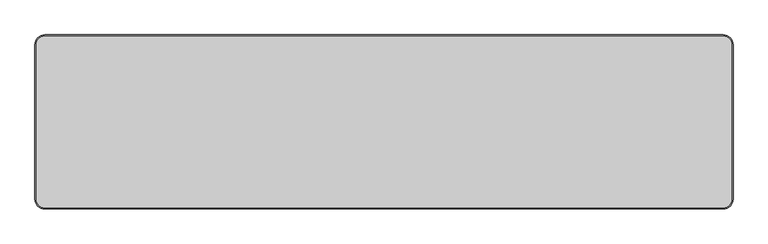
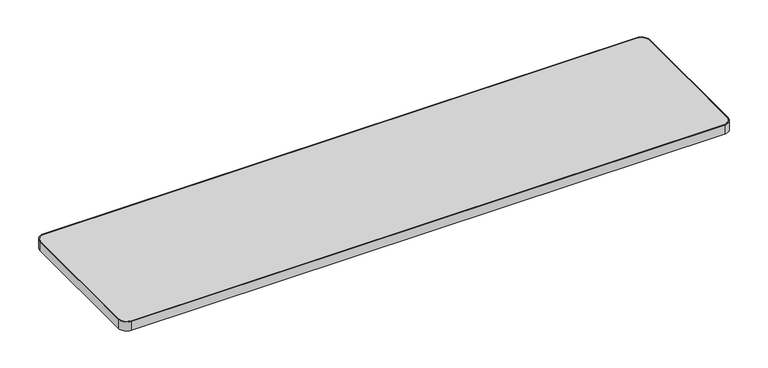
"""IFC4 building model written with IfcOpenShell, lengths in millimetres: furniture geometry, Steelcase - Groupwork - Table - Top - Rectangular : 18D x 72W - HPL."""

import ifcopenshell
import ifcopenshell.guid

model = None  # the IFC model being written
_history = None  # IfcOwnerHistory: only IFC2X3 demands one
_inside = {}  # id of a spatial element -> (the spatial element, [elements in it])
_under = {}  # id of a project, library or spatial element -> (it, [spatial elements below it])
_declared = {}  # id of a project -> (the project, [libraries it declares])
_typed = {}  # id of a type object -> (the type object, [elements of that type])
_made_of = {}  # id of a material, layer set ... -> (it, [elements and type objects made of it])


def new_model(schema):
    """Start an empty IFC model of exactly this schema.

    Asked for "IFC4X3", IfcOpenShell would pick the latest addendum, in which some entities
    have other attributes; the version numbers below select the first issue.
    IFC2X3 requires an IfcOwnerHistory on every rooted entity: one is made here for all.
    """
    global model, _history
    if schema == "IFC4X3":
        model = ifcopenshell.file(schema_version=(4, 3, 0, 0))
    else:
        model = ifcopenshell.file(schema=schema)
    _inside.clear()
    _under.clear()
    _declared.clear()
    _typed.clear()
    _made_of.clear()
    _history = None
    if model.schema == "IFC2X3":
        org = make("IfcOrganization", Name="unknown")
        user = make(
            "IfcPersonAndOrganization",
            ThePerson=make("IfcPerson", FamilyName="unknown"),
            TheOrganization=org,
        )
        app = make(
            "IfcApplication",
            ApplicationDeveloper=org,
            Version="unknown",
            ApplicationFullName="unknown",
            ApplicationIdentifier="unknown",
        )
        _history = make(
            "IfcOwnerHistory",
            OwningUser=user,
            OwningApplication=app,
            ChangeAction="ADDED",
            CreationDate=0,
        )
    return model


def make(cls, **values):
    """One entity of the class cls with the attributes given. An attribute that is None is left unset."""
    return model.create_entity(
        cls, **{name: value for name, value in values.items() if value is not None}
    )


def rooted(cls, **values):
    """An entity with a GlobalId (a new one), such as an element, a storey or a relation."""
    return make(cls, GlobalId=ifcopenshell.guid.new(), OwnerHistory=_history, **values)


def si_unit(unit_type, name, prefix=None):
    """IfcSIUnit, for example si_unit("LENGTHUNIT", "METRE", prefix="MILLI")."""
    return make("IfcSIUnit", UnitType=unit_type, Prefix=prefix, Name=name)


def assignment(units):
    """IfcUnitAssignment: the units of a project."""
    return None if units is None else make("IfcUnitAssignment", Units=units)


def point(xyz):
    """IfcCartesianPoint."""
    return None if xyz is None else make("IfcCartesianPoint", Coordinates=xyz)


def direction(xyz):
    """IfcDirection."""
    return None if xyz is None else make("IfcDirection", DirectionRatios=xyz)


def frame(location, z_axis=None, x_axis=None):
    """IfcAxis2Placement3D, a coordinate frame: its origin and axes. An axis left out is left unset."""
    return make(
        "IfcAxis2Placement3D",
        Location=point(location),
        Axis=direction(z_axis),
        RefDirection=direction(x_axis),
    )


def frame_2d(location, x_axis=None):
    """IfcAxis2Placement2D, a coordinate frame in the plane: its origin and x axis."""
    return make(
        "IfcAxis2Placement2D", Location=point(location), RefDirection=direction(x_axis)
    )


def origin():
    """The frame at (0, 0, 0) with its axes left unset."""
    return frame((0.0, 0.0, 0.0))


def place(relative_to, where):
    """IfcLocalPlacement: puts the frame where relative to a parent placement (None: the world)."""
    return make(
        "IfcLocalPlacement", PlacementRelTo=relative_to, RelativePlacement=where
    )


def context(
    kind, dimensions, precision=None, world=None, true_north=None, identifier=None
):
    """IfcGeometricRepresentationContext, for example the 3D "Model" context."""
    return make(
        "IfcGeometricRepresentationContext",
        ContextIdentifier=identifier,
        ContextType=kind,
        CoordinateSpaceDimension=dimensions,
        Precision=precision,
        WorldCoordinateSystem=world,
        TrueNorth=true_north,
    )


def project(units=None, contexts=None):
    """IfcProject with its units and contexts."""
    return rooted(
        "IfcProject",
        Name="project",
        RepresentationContexts=contexts,
        UnitsInContext=assignment(units),
    )


def spatial(cls, under=None, at=None, **own):
    """A site, building, storey or space (cls), placed at a placement, below another one or the project."""
    s = rooted(cls, ObjectPlacement=at, **own)
    if under is not None:
        _under.setdefault(under.id(), (under, []))[1].append(s)
    return s


def polyline(points):
    """IfcPolyline through the points."""
    return make("IfcPolyline", Points=[point(p) for p in points])


def circle_curve(where, radius):
    """IfcCircle in the frame where."""
    return make("IfcCircle", Position=where, Radius=radius)


def trimmed(basis, trim1, trim2, sense, master):
    """IfcTrimmedCurve: the piece of a basis curve between two trims."""
    return make(
        "IfcTrimmedCurve",
        BasisCurve=basis,
        Trim1=trim1,
        Trim2=trim2,
        SenseAgreement=sense,
        MasterRepresentation=master,
    )


def segment(curve, same_sense, transition):
    """IfcCompositeCurveSegment."""
    return make(
        "IfcCompositeCurveSegment",
        Transition=transition,
        SameSense=same_sense,
        ParentCurve=curve,
    )


def composite_curve(segments, self_intersect=None):
    """IfcCompositeCurve: segments joined end to end."""
    return make("IfcCompositeCurve", Segments=segments, SelfIntersect=self_intersect)


def outline(outer, holes=None, kind="AREA"):
    """IfcArbitraryClosedProfileDef: a profile drawn as a closed curve; with holes, ...WithVoids."""
    if holes is None:
        return make("IfcArbitraryClosedProfileDef", ProfileType=kind, OuterCurve=outer)
    return make(
        "IfcArbitraryProfileDefWithVoids",
        ProfileType=kind,
        OuterCurve=outer,
        InnerCurves=holes,
    )


def extrude(swept, where, along, depth):
    """IfcExtrudedAreaSolid: the profile swept, set in the frame where, extruded along a direction by depth."""
    return make(
        "IfcExtrudedAreaSolid",
        SweptArea=swept,
        Position=where,
        ExtrudedDirection=direction(along),
        Depth=depth,
    )


def shape(context_of_items, identifier, shape_type, items):
    """IfcShapeRepresentation: the items that make up one representation, for example the "Body"."""
    return make(
        "IfcShapeRepresentation",
        ContextOfItems=context_of_items,
        RepresentationIdentifier=identifier,
        RepresentationType=shape_type,
        Items=items,
    )


def source(mapping_origin, context_of_items, identifier, shape_type, items):
    """IfcRepresentationMap: a shape defined once, which mapped items show again and again."""
    return make(
        "IfcRepresentationMap",
        MappingOrigin=mapping_origin,
        MappedRepresentation=shape(context_of_items, identifier, shape_type, items),
    )


def transform(
    local_origin,
    x_axis=None,
    y_axis=None,
    z_axis=None,
    scale=None,
    scale2=None,
    scale3=None,
    uniform=True,
):
    """IfcCartesianTransformationOperator3D, or its non-uniform kind. x_axis, y_axis, z_axis: its Axis1, 2, 3."""
    if uniform:
        return make(
            "IfcCartesianTransformationOperator3D",
            Axis1=direction(x_axis),
            Axis2=direction(y_axis),
            LocalOrigin=point(local_origin),
            Scale=scale,
            Axis3=direction(z_axis),
        )
    return make(
        "IfcCartesianTransformationOperator3DnonUniform",
        Axis1=direction(x_axis),
        Axis2=direction(y_axis),
        LocalOrigin=point(local_origin),
        Scale=scale,
        Axis3=direction(z_axis),
        Scale2=scale2,
        Scale3=scale3,
    )


def mapped(mapping_source, mapping_target):
    """IfcMappedItem: shows the shape of a source again, moved by a transform."""
    return make(
        "IfcMappedItem", MappingSource=mapping_source, MappingTarget=mapping_target
    )


def made_of(thing, what):
    """Note that an element or type object is made of a material, layer set ...; save() writes the relation."""
    if what is not None:
        _made_of.setdefault(what.id(), (what, []))[1].append(thing)
    return thing


def element(
    cls,
    number,
    at=None,
    inside=None,
    cuts=None,
    type_object=None,
    material=None,
    context=None,
    identifier="Body",
    shape_type=None,
    held_by="IfcProductDefinitionShape",
    body=None,
    shapes=None,
    **own,
):
    """One element of the class cls, such as IfcWall. Its Tag is "e" and its number.

    at: its placement. inside: the storey or other place that contains it. cuts: it is an
    opening in that element (IfcRelVoidsElement). A single representation is given by context,
    identifier, shape_type and body (its items); several are given by shapes. held_by: the class
    of the entity that holds the representations. save() writes the other relations.
    """
    e = rooted(cls, Tag="e%d" % number, ObjectPlacement=at, **own)
    if body is not None:
        shapes = [shape(context, identifier, shape_type, body)]
    if shapes is not None:
        e.Representation = make(held_by, Representations=shapes)
    if inside is not None:
        _inside.setdefault(inside.id(), (inside, []))[1].append(e)
    if cuts is not None:
        rooted(
            "IfcRelVoidsElement", RelatingBuildingElement=cuts, RelatedOpeningElement=e
        )
    if type_object is not None:
        _typed.setdefault(type_object.id(), (type_object, []))[1].append(e)
    return made_of(e, material)


def aggregate(whole, parts):
    """IfcRelAggregates: a whole, such as a stair, and the parts it consists of."""
    return rooted("IfcRelAggregates", RelatingObject=whole, RelatedObjects=parts)


def save(model, path):
    """Write the relations noted so far, then the file.

    IfcRelAggregates (storeys below a building ...), IfcRelContainedInSpatialStructure (elements
    in a storey), IfcRelDefinesByType, IfcRelAssociatesMaterial and IfcRelDeclares: one each for
    every whole, place, type object, material and project.
    """
    for whole, parts in _under.values():
        aggregate(whole, parts)
    for where, things in _inside.values():
        rooted(
            "IfcRelContainedInSpatialStructure",
            RelatedElements=things,
            RelatingStructure=where,
        )
    for kind, things in _typed.values():
        rooted("IfcRelDefinesByType", RelatedObjects=things, RelatingType=kind)
    for what, things in _made_of.values():
        rooted("IfcRelAssociatesMaterial", RelatedObjects=things, RelatingMaterial=what)
    for by, libraries in _declared.values():
        rooted("IfcRelDeclares", RelatingContext=by, RelatedDefinitions=libraries)
    model.write(path)


def furniture_33526d85(model_context):
    return source(origin(), model_context, "Body", "SweptSolid", [
        extrude(outline(composite_curve([segment(polyline([(-916.94, 225.6), (860.14, 225.6)]), True, "CONTINUOUS"), segment(trimmed(circle_curve(frame_2d((860.14, 202.74)), 22.86), [point((860.14, 225.6))], [point((883.0, 202.74))], False, "CARTESIAN"), True, "CONTINUOUS"), segment(polyline([(883.0, 202.74), (883.0, -202.74)]), True, "CONTINUOUS"), segment(trimmed(circle_curve(frame_2d((860.14, -202.74)), 22.86), [point((883.0, -202.74))], [point((860.14, -225.6))], False, "CARTESIAN"), True, "CONTINUOUS"), segment(polyline([(860.14, -225.6), (-916.94, -225.6)]), True, "CONTINUOUS"), segment(trimmed(circle_curve(frame_2d((-916.94, -202.74)), 22.86), [point((-916.94, -225.6))], [point((-939.8, -202.74))], False, "CARTESIAN"), True, "CONTINUOUS"), segment(polyline([(-939.8, -202.74), (-939.8, 202.74)]), True, "CONTINUOUS"), segment(trimmed(circle_curve(frame_2d((-916.94, 202.74)), 22.86), [point((-939.8, 202.74))], [point((-916.94, 225.6))], False, "CARTESIAN"), True, "CONTINUOUS")], self_intersect=False)), frame((0.0, 0.0, 694.944), z_axis=(0.0, 0.0, 1.0), x_axis=(1.0, 0.0, 0.0)), (0.0, 0.0, 1.0), 28.956),
        extrude(outline(composite_curve([segment(trimmed(circle_curve(frame_2d((860.5385373, 203.1385373)), 25.4614627), [point((860.5385373, 228.6))], [point((886.0, 203.1385373))], False, "CARTESIAN"), True, "CONTINUOUS"), segment(polyline([(886.0, 203.1385373), (886.0, -203.2211297)]), True, "CONTINUOUS"), segment(trimmed(circle_curve(frame_2d((860.6211297, -203.2211297)), 25.3788703), [point((886.0, -203.2211297))], [point((860.6211297, -228.6))], False, "CARTESIAN"), True, "CONTINUOUS"), segment(polyline([(860.6211297, -228.6), (-917.4, -228.6)]), True, "CONTINUOUS"), segment(trimmed(circle_curve(frame_2d((-917.4, -203.2)), 25.4), [point((-917.4, -228.6))], [point((-942.8, -203.2))], False, "CARTESIAN"), True, "CONTINUOUS"), segment(polyline([(-942.8, -203.2), (-942.8, 203.2)]), True, "CONTINUOUS"), segment(trimmed(circle_curve(frame_2d((-917.4, 203.2)), 25.4), [point((-942.8, 203.2))], [point((-917.4, 228.6))], False, "CARTESIAN"), True, "CONTINUOUS"), segment(polyline([(-917.4, 228.6), (860.5385373, 228.6)]), True, "CONTINUOUS")], self_intersect=False), holes=[composite_curve([segment(polyline([(860.2064662, 225.6), (-916.94, 225.6)]), True, "CONTINUOUS"), segment(trimmed(circle_curve(frame_2d((-916.94, 202.74)), 22.86), [point((-916.94, 225.6))], [point((-939.8, 202.74))], True, "CARTESIAN"), True, "CONTINUOUS"), segment(polyline([(-939.8, 202.74), (-939.8, -202.74)]), True, "CONTINUOUS"), segment(trimmed(circle_curve(frame_2d((-916.94, -202.74)), 22.86), [point((-939.8, -202.74))], [point((-916.94, -225.6))], True, "CARTESIAN"), True, "CONTINUOUS"), segment(polyline([(-916.94, -225.6), (859.973488, -225.6)]), True, "CONTINUOUS"), segment(trimmed(circle_curve(frame_2d((859.973488, -202.573488)), 23.026512), [point((859.973488, -225.6))], [point((883.0, -202.573488))], True, "CARTESIAN"), True, "CONTINUOUS"), segment(polyline([(883.0, -202.573488), (883.0, 202.8064662)]), True, "CONTINUOUS"), segment(trimmed(circle_curve(frame_2d((860.2064662, 202.8064662)), 22.7935338), [point((883.0, 202.8064662))], [point((860.2064662, 225.6))], True, "CARTESIAN"), True, "CONTINUOUS")], self_intersect=False)]), frame((0.0, 0.0, 694.944), z_axis=(0.0, 0.0, 1.0), x_axis=(1.0, 0.0, 0.0)), (0.0, 0.0, 1.0), 28.956),
    ])


if __name__ == "__main__":
    model = new_model("IFC4")
    model_context = context("Model", 3, world=origin())
    ifc_project = project(units=[si_unit("LENGTHUNIT", "METRE", prefix="MILLI")], contexts=[model_context])
    site = spatial("IfcSite", under=ifc_project)
    building = spatial("IfcBuilding", under=site)
    placement = place(None, origin())
    furniture_shape = furniture_33526d85(model_context)
    element("IfcFurniture", 1, ObjectType="Steelcase - Groupwork - Table - Top - Rectangular : 18D x 72W - HPL", at=placement, inside=building, context=model_context, shape_type="MappedRepresentation", body=[
        mapped(furniture_shape, transform((0.0, 0.0, 0.0), x_axis=(1.0, 0.0, 0.0), y_axis=(0.0, 1.0, 0.0), z_axis=(0.0, 0.0, 1.0))),
    ])
    save(model, "model.ifc")
